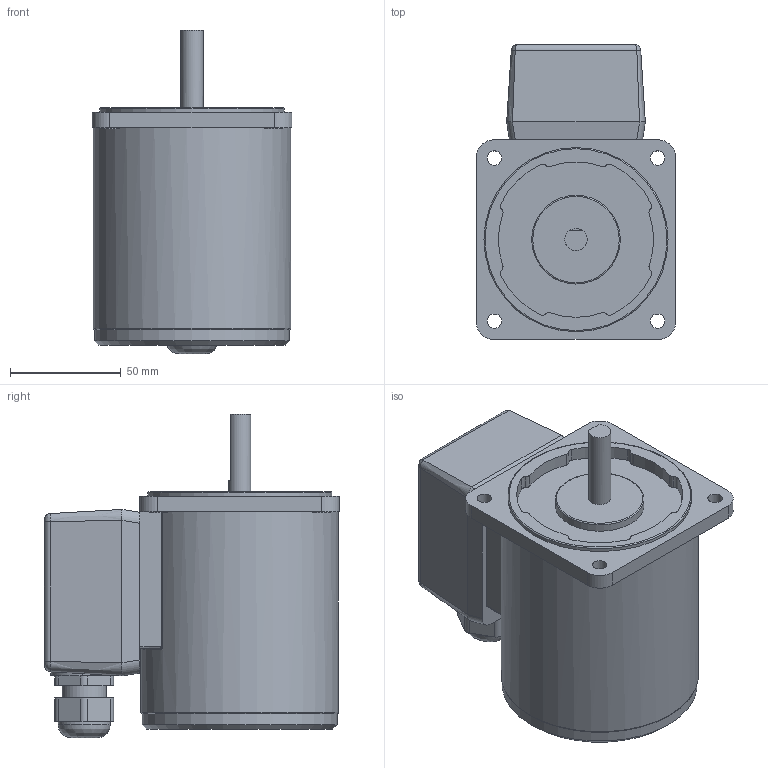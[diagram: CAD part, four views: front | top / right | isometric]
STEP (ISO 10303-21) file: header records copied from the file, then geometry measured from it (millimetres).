
FILE_DESCRIPTION((''),'2;1');
FILE_NAME('E:\2공장-도면\3D\표준형 3D(민규)\step file\K9IS40Nㅁ-T.stp','2014-11-12T17:51:29',('AHN'),(''),'Autodesk Inventor 2012','Autodesk Inventor 2012','');
FILE_SCHEMA(('CONFIG_CONTROL_DESIGN'));
Length unit declared in the file: millimetre
Products named in the file (3): K9IS40Nㅁ-T; K9IS40Nㅁ; TERMINAL BOX
Assembly tree (2 placements, depth 2):
  K9IS40Nㅁ-T
    K9IS40Nㅁ
    TERMINAL BOX
Bounding box: 90 x 133 x 146 mm (x, y, z)
Volume: 872594.2 mm3; surface area: 72443.9 mm2
Topology: 2 solids, 2 shells, 134 faces, 330 edges, 212 vertices
Faces by surface type: cylinder 68, plane 50, bspline 11, torus 4, cone 1
Full cylindrical faces by diameter (mm): 6.5 x4, 8 x4, 10 x1, 20 x1, 23.5 x1, 40 x1, 83 x1, 88 x1, 89 x1
Entity records: 4286 total; most frequent: CARTESIAN_POINT 1070, DIRECTION 685, ORIENTED_EDGE 610, EDGE_CURVE 305, AXIS2_PLACEMENT_3D 270, VERTEX_POINT 207, EDGE_LOOP 174, VECTOR 145
